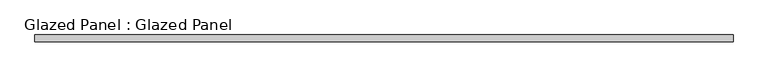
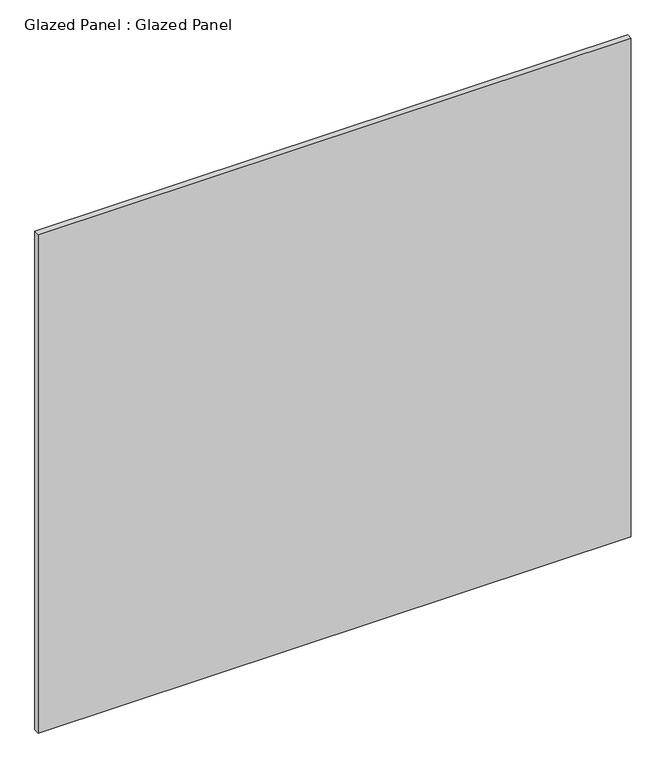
"""IFC4 building model written with IfcOpenShell, lengths in millimetres: plate geometry, Glazed Panel : Glazed Panel."""

import ifcopenshell
import ifcopenshell.guid

model = None  # the IFC model being written
_history = None  # IfcOwnerHistory: only IFC2X3 demands one
_inside = {}  # id of a spatial element -> (the spatial element, [elements in it])
_under = {}  # id of a project, library or spatial element -> (it, [spatial elements below it])
_declared = {}  # id of a project -> (the project, [libraries it declares])
_typed = {}  # id of a type object -> (the type object, [elements of that type])
_made_of = {}  # id of a material, layer set ... -> (it, [elements and type objects made of it])


def new_model(schema):
    """Start an empty IFC model of exactly this schema.

    Asked for "IFC4X3", IfcOpenShell would pick the latest addendum, in which some entities
    have other attributes; the version numbers below select the first issue.
    IFC2X3 requires an IfcOwnerHistory on every rooted entity: one is made here for all.
    """
    global model, _history
    if schema == "IFC4X3":
        model = ifcopenshell.file(schema_version=(4, 3, 0, 0))
    else:
        model = ifcopenshell.file(schema=schema)
    _inside.clear()
    _under.clear()
    _declared.clear()
    _typed.clear()
    _made_of.clear()
    _history = None
    if model.schema == "IFC2X3":
        org = make("IfcOrganization", Name="unknown")
        user = make(
            "IfcPersonAndOrganization",
            ThePerson=make("IfcPerson", FamilyName="unknown"),
            TheOrganization=org,
        )
        app = make(
            "IfcApplication",
            ApplicationDeveloper=org,
            Version="unknown",
            ApplicationFullName="unknown",
            ApplicationIdentifier="unknown",
        )
        _history = make(
            "IfcOwnerHistory",
            OwningUser=user,
            OwningApplication=app,
            ChangeAction="ADDED",
            CreationDate=0,
        )
    return model


def make(cls, **values):
    """One entity of the class cls with the attributes given. An attribute that is None is left unset."""
    return model.create_entity(
        cls, **{name: value for name, value in values.items() if value is not None}
    )


def rooted(cls, **values):
    """An entity with a GlobalId (a new one), such as an element, a storey or a relation."""
    return make(cls, GlobalId=ifcopenshell.guid.new(), OwnerHistory=_history, **values)


def si_unit(unit_type, name, prefix=None):
    """IfcSIUnit, for example si_unit("LENGTHUNIT", "METRE", prefix="MILLI")."""
    return make("IfcSIUnit", UnitType=unit_type, Prefix=prefix, Name=name)


def assignment(units):
    """IfcUnitAssignment: the units of a project."""
    return None if units is None else make("IfcUnitAssignment", Units=units)


def point(xyz):
    """IfcCartesianPoint."""
    return None if xyz is None else make("IfcCartesianPoint", Coordinates=xyz)


def direction(xyz):
    """IfcDirection."""
    return None if xyz is None else make("IfcDirection", DirectionRatios=xyz)


def frame(location, z_axis=None, x_axis=None):
    """IfcAxis2Placement3D, a coordinate frame: its origin and axes. An axis left out is left unset."""
    return make(
        "IfcAxis2Placement3D",
        Location=point(location),
        Axis=direction(z_axis),
        RefDirection=direction(x_axis),
    )


def origin():
    """The frame at (0, 0, 0) with its axes left unset."""
    return frame((0.0, 0.0, 0.0))


def origin_with_axes():
    """The frame at (0, 0, 0) with the z axis (0, 0, 1) and the x axis (1, 0, 0) written out."""
    return frame((0.0, 0.0, 0.0), z_axis=(0.0, 0.0, 1.0), x_axis=(1.0, 0.0, 0.0))


def place(relative_to, where):
    """IfcLocalPlacement: puts the frame where relative to a parent placement (None: the world)."""
    return make(
        "IfcLocalPlacement", PlacementRelTo=relative_to, RelativePlacement=where
    )


def context(
    kind, dimensions, precision=None, world=None, true_north=None, identifier=None
):
    """IfcGeometricRepresentationContext, for example the 3D "Model" context."""
    return make(
        "IfcGeometricRepresentationContext",
        ContextIdentifier=identifier,
        ContextType=kind,
        CoordinateSpaceDimension=dimensions,
        Precision=precision,
        WorldCoordinateSystem=world,
        TrueNorth=true_north,
    )


def project(units=None, contexts=None):
    """IfcProject with its units and contexts."""
    return rooted(
        "IfcProject",
        Name="project",
        RepresentationContexts=contexts,
        UnitsInContext=assignment(units),
    )


def spatial(cls, under=None, at=None, **own):
    """A site, building, storey or space (cls), placed at a placement, below another one or the project."""
    s = rooted(cls, ObjectPlacement=at, **own)
    if under is not None:
        _under.setdefault(under.id(), (under, []))[1].append(s)
    return s


def polyline(points):
    """IfcPolyline through the points."""
    return make("IfcPolyline", Points=[point(p) for p in points])


def outline(outer, holes=None, kind="AREA"):
    """IfcArbitraryClosedProfileDef: a profile drawn as a closed curve; with holes, ...WithVoids."""
    if holes is None:
        return make("IfcArbitraryClosedProfileDef", ProfileType=kind, OuterCurve=outer)
    return make(
        "IfcArbitraryProfileDefWithVoids",
        ProfileType=kind,
        OuterCurve=outer,
        InnerCurves=holes,
    )


def extrude(swept, where, along, depth):
    """IfcExtrudedAreaSolid: the profile swept, set in the frame where, extruded along a direction by depth."""
    return make(
        "IfcExtrudedAreaSolid",
        SweptArea=swept,
        Position=where,
        ExtrudedDirection=direction(along),
        Depth=depth,
    )


def shape(context_of_items, identifier, shape_type, items):
    """IfcShapeRepresentation: the items that make up one representation, for example the "Body"."""
    return make(
        "IfcShapeRepresentation",
        ContextOfItems=context_of_items,
        RepresentationIdentifier=identifier,
        RepresentationType=shape_type,
        Items=items,
    )


def source(mapping_origin, context_of_items, identifier, shape_type, items):
    """IfcRepresentationMap: a shape defined once, which mapped items show again and again."""
    return make(
        "IfcRepresentationMap",
        MappingOrigin=mapping_origin,
        MappedRepresentation=shape(context_of_items, identifier, shape_type, items),
    )


def transform(
    local_origin,
    x_axis=None,
    y_axis=None,
    z_axis=None,
    scale=None,
    scale2=None,
    scale3=None,
    uniform=True,
):
    """IfcCartesianTransformationOperator3D, or its non-uniform kind. x_axis, y_axis, z_axis: its Axis1, 2, 3."""
    if uniform:
        return make(
            "IfcCartesianTransformationOperator3D",
            Axis1=direction(x_axis),
            Axis2=direction(y_axis),
            LocalOrigin=point(local_origin),
            Scale=scale,
            Axis3=direction(z_axis),
        )
    return make(
        "IfcCartesianTransformationOperator3DnonUniform",
        Axis1=direction(x_axis),
        Axis2=direction(y_axis),
        LocalOrigin=point(local_origin),
        Scale=scale,
        Axis3=direction(z_axis),
        Scale2=scale2,
        Scale3=scale3,
    )


def mapped(mapping_source, mapping_target):
    """IfcMappedItem: shows the shape of a source again, moved by a transform."""
    return make(
        "IfcMappedItem", MappingSource=mapping_source, MappingTarget=mapping_target
    )


def made_of(thing, what):
    """Note that an element or type object is made of a material, layer set ...; save() writes the relation."""
    if what is not None:
        _made_of.setdefault(what.id(), (what, []))[1].append(thing)
    return thing


def element(
    cls,
    number,
    at=None,
    inside=None,
    cuts=None,
    type_object=None,
    material=None,
    context=None,
    identifier="Body",
    shape_type=None,
    held_by="IfcProductDefinitionShape",
    body=None,
    shapes=None,
    **own,
):
    """One element of the class cls, such as IfcWall. Its Tag is "e" and its number.

    at: its placement. inside: the storey or other place that contains it. cuts: it is an
    opening in that element (IfcRelVoidsElement). A single representation is given by context,
    identifier, shape_type and body (its items); several are given by shapes. held_by: the class
    of the entity that holds the representations. save() writes the other relations.
    """
    e = rooted(cls, Tag="e%d" % number, ObjectPlacement=at, **own)
    if body is not None:
        shapes = [shape(context, identifier, shape_type, body)]
    if shapes is not None:
        e.Representation = make(held_by, Representations=shapes)
    if inside is not None:
        _inside.setdefault(inside.id(), (inside, []))[1].append(e)
    if cuts is not None:
        rooted(
            "IfcRelVoidsElement", RelatingBuildingElement=cuts, RelatedOpeningElement=e
        )
    if type_object is not None:
        _typed.setdefault(type_object.id(), (type_object, []))[1].append(e)
    return made_of(e, material)


def aggregate(whole, parts):
    """IfcRelAggregates: a whole, such as a stair, and the parts it consists of."""
    return rooted("IfcRelAggregates", RelatingObject=whole, RelatedObjects=parts)


def save(model, path):
    """Write the relations noted so far, then the file.

    IfcRelAggregates (storeys below a building ...), IfcRelContainedInSpatialStructure (elements
    in a storey), IfcRelDefinesByType, IfcRelAssociatesMaterial and IfcRelDeclares: one each for
    every whole, place, type object, material and project.
    """
    for whole, parts in _under.values():
        aggregate(whole, parts)
    for where, things in _inside.values():
        rooted(
            "IfcRelContainedInSpatialStructure",
            RelatedElements=things,
            RelatingStructure=where,
        )
    for kind, things in _typed.values():
        rooted("IfcRelDefinesByType", RelatedObjects=things, RelatingType=kind)
    for what, things in _made_of.values():
        rooted("IfcRelAssociatesMaterial", RelatedObjects=things, RelatingMaterial=what)
    for by, libraries in _declared.values():
        rooted("IfcRelDeclares", RelatingContext=by, RelatedDefinitions=libraries)
    model.write(path)


def glazed_panel_glazed_panel_af7c71ff(model_context):
    return source(origin(), model_context, "Body", "SweptSolid", [
        extrude(outline(polyline([(1318.9865007, 38.1), (-1318.9865007, 38.1), (-1318.9865007, 63.5), (1318.9865007, 63.5), (1318.9865007, 38.1)])), origin_with_axes(), (0.0, 0.0, 1.0), 2343.15),
    ])


if __name__ == "__main__":
    model = new_model("IFC4")
    model_context = context("Model", 3, world=origin())
    ifc_project = project(units=[si_unit("LENGTHUNIT", "METRE", prefix="MILLI")], contexts=[model_context])
    site = spatial("IfcSite", under=ifc_project)
    building = spatial("IfcBuilding", under=site)
    placement = place(None, origin())
    glazed_panel_glazed_panel_shape = glazed_panel_glazed_panel_af7c71ff(model_context)
    element("IfcPlate", 1, ObjectType="Glazed Panel : Glazed Panel", at=placement, inside=building, context=model_context, shape_type="MappedRepresentation", body=[
        mapped(glazed_panel_glazed_panel_shape, transform((0.0, 0.0, 0.0), x_axis=(1.0, 0.0, 0.0), y_axis=(0.0, 1.0, 0.0), z_axis=(0.0, 0.0, 1.0))),
    ])
    save(model, "model.ifc")
